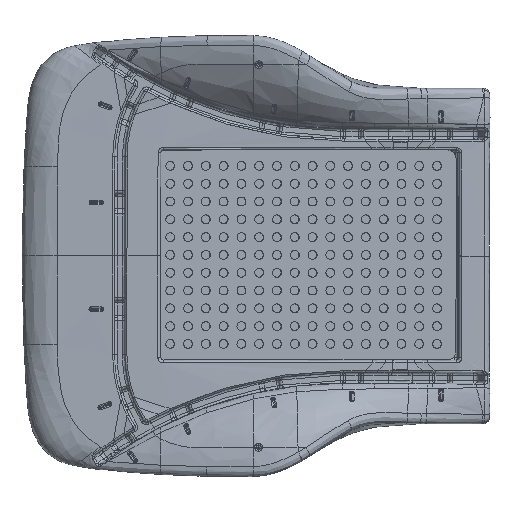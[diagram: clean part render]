
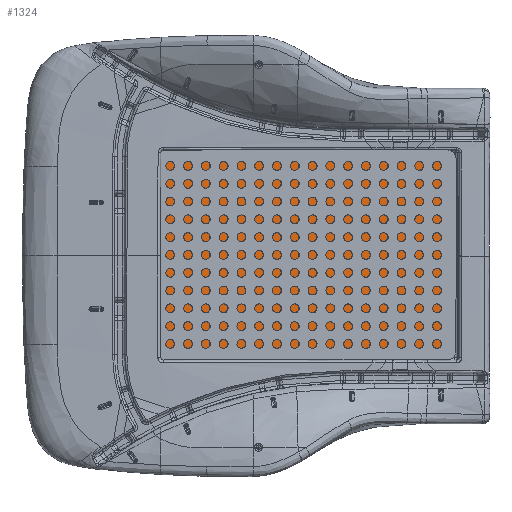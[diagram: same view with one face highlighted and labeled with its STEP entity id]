
A CAD part, top view. The second image highlights one B-rep face of the part: STEP entity #1324.
In plain terms, the highlighted planar face has unit normal (0.039, -0.004, 0.999).
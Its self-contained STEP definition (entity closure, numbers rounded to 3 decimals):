
#1117=AXIS2_PLACEMENT_3D('Circle Axis2P3D',#1115,#1116,$) ;
#1248=AXIS2_PLACEMENT_3D('Plane Axis2P3D',#1245,#1246,#1247) ;
#1311=AXIS2_PLACEMENT_3D('Circle Axis2P3D',#1309,#1310,$) ;
#1112=CARTESIAN_POINT('Vertex',(-430.165,-500.56,604.449)) ;
#1115=CARTESIAN_POINT('Axis2P3D Location',(-420.173,-500.56,604.056)) ;
#1119=CARTESIAN_POINT('Vertex',(-420.172,-490.56,604.096)) ;
#1226=CARTESIAN_POINT('Line Origine',(-430.183,-608.55,604.024)) ;
#1230=CARTESIAN_POINT('Vertex',(-430.2,-716.539,603.598)) ;
#1245=CARTESIAN_POINT('Axis2P3D Location',(23.14,-2.322,588.593)) ;
#1250=CARTESIAN_POINT('Line Origine',(-94.165,-608.551,590.813)) ;
#1254=CARTESIAN_POINT('Vertex',(-94.183,-716.541,590.388)) ;
#1256=CARTESIAN_POINT('Vertex',(-94.148,-500.561,591.239)) ;
#1260=CARTESIAN_POINT('Control Point',(-104.139,-490.561,591.671)) ;
#1261=CARTESIAN_POINT('Control Point',(-103.21,-490.561,591.634)) ;
#1262=CARTESIAN_POINT('Control Point',(-102.281,-490.669,591.597)) ;
#1263=CARTESIAN_POINT('Control Point',(-101.369,-490.885,591.561)) ;
#1264=CARTESIAN_POINT('Control Point',(-99.612,-491.526,591.489)) ;
#1265=CARTESIAN_POINT('Control Point',(-98.048,-492.552,591.423)) ;
#1266=CARTESIAN_POINT('Control Point',(-97.33,-493.154,591.393)) ;
#1267=CARTESIAN_POINT('Control Point',(-96.046,-494.515,591.337)) ;
#1268=CARTESIAN_POINT('Control Point',(-95.108,-496.133,591.294)) ;
#1269=CARTESIAN_POINT('Control Point',(-94.735,-496.994,591.276)) ;
#1270=CARTESIAN_POINT('Control Point',(-94.364,-498.23,591.256)) ;
#1271=CARTESIAN_POINT('Control Point',(-94.195,-499.502,591.245)) ;
#1272=CARTESIAN_POINT('Control Point',(-94.164,-499.856,591.242)) ;
#1273=CARTESIAN_POINT('Control Point',(-94.148,-500.209,591.24)) ;
#1274=CARTESIAN_POINT('Control Point',(-94.148,-500.561,591.239)) ;
#1275=CARTESIAN_POINT('Vertex',(-104.139,-490.561,591.671)) ;
#1278=CARTESIAN_POINT('Line Origine',(-262.155,-490.561,597.883)) ;
#1284=CARTESIAN_POINT('Control Point',(-420.209,-726.539,603.166)) ;
#1285=CARTESIAN_POINT('Control Point',(-421.138,-726.539,603.203)) ;
#1286=CARTESIAN_POINT('Control Point',(-422.067,-726.431,603.24)) ;
#1287=CARTESIAN_POINT('Control Point',(-422.979,-726.215,603.276)) ;
#1288=CARTESIAN_POINT('Control Point',(-424.736,-725.575,603.348)) ;
#1289=CARTESIAN_POINT('Control Point',(-426.3,-724.549,603.413)) ;
#1290=CARTESIAN_POINT('Control Point',(-427.018,-723.947,603.444)) ;
#1291=CARTESIAN_POINT('Control Point',(-428.302,-722.586,603.5)) ;
#1292=CARTESIAN_POINT('Control Point',(-429.24,-720.967,603.543)) ;
#1293=CARTESIAN_POINT('Control Point',(-429.613,-720.107,603.561)) ;
#1294=CARTESIAN_POINT('Control Point',(-429.984,-718.871,603.581)) ;
#1295=CARTESIAN_POINT('Control Point',(-430.153,-717.598,603.592)) ;
#1296=CARTESIAN_POINT('Control Point',(-430.184,-717.245,603.595)) ;
#1297=CARTESIAN_POINT('Control Point',(-430.2,-716.892,603.597)) ;
#1298=CARTESIAN_POINT('Control Point',(-430.2,-716.539,603.598)) ;
#1299=CARTESIAN_POINT('Vertex',(-420.209,-726.539,603.166)) ;
#1302=CARTESIAN_POINT('Line Origine',(-262.193,-726.54,596.954)) ;
#1306=CARTESIAN_POINT('Vertex',(-104.176,-726.541,590.741)) ;
#1309=CARTESIAN_POINT('Axis2P3D Location',(-104.175,-716.541,590.781)) ;
#1116=DIRECTION('Axis2P3D Direction',(-0.039,0.004,-0.999)) ;
#1227=DIRECTION('Vector Direction',(0.,1.,0.004)) ;
#1246=DIRECTION('Axis2P3D Direction',(0.039,-0.004,0.999)) ;
#1247=DIRECTION('Axis2P3D XDirection',(0.1,0.995,0.)) ;
#1251=DIRECTION('Vector Direction',(0.,-1.,-0.004)) ;
#1279=DIRECTION('Vector Direction',(-0.999,0.,0.039)) ;
#1303=DIRECTION('Vector Direction',(0.999,0.,-0.039)) ;
#1310=DIRECTION('Axis2P3D Direction',(0.039,-0.004,0.999)) ;
#1228=VECTOR('Line Direction',#1227,1.) ;
#1252=VECTOR('Line Direction',#1251,1.) ;
#1280=VECTOR('Line Direction',#1279,1.) ;
#1304=VECTOR('Line Direction',#1303,1.) ;
#1315=ORIENTED_EDGE('',*,*,#1258,.T.) ;
#1316=ORIENTED_EDGE('',*,*,#1277,.F.) ;
#1317=ORIENTED_EDGE('',*,*,#1282,.T.) ;
#1318=ORIENTED_EDGE('',*,*,#1121,.F.) ;
#1319=ORIENTED_EDGE('',*,*,#1232,.T.) ;
#1320=ORIENTED_EDGE('',*,*,#1301,.F.) ;
#1321=ORIENTED_EDGE('',*,*,#1308,.T.) ;
#1322=ORIENTED_EDGE('',*,*,#1313,.F.) ;
#1324=ADVANCED_FACE('\X2\5C555F0072B66001\X0\',(#1323),#1249,.T.) ;
#1259=B_SPLINE_CURVE_WITH_KNOTS('',5,(#1260,#1261,#1262,#1263,#1264,#1265,#1266,#1267,#1268,#1269,#1270,#1271,#1272,#1273,#1274),.UNSPECIFIED.,.F.,.U.,(6,3,3,3,6),(0.,6.586,13.172,19.758,22.258),.UNSPECIFIED.) ;
#1283=B_SPLINE_CURVE_WITH_KNOTS('',5,(#1284,#1285,#1286,#1287,#1288,#1289,#1290,#1291,#1292,#1293,#1294,#1295,#1296,#1297,#1298),.UNSPECIFIED.,.F.,.U.,(6,3,3,3,6),(0.,6.586,13.172,19.758,22.258),.UNSPECIFIED.) ;
#1118=CIRCLE('generated circle',#1117,10.) ;
#1312=CIRCLE('generated circle',#1311,10.) ;
#1121=EDGE_CURVE('',#1113,#1120,#1118,.T.) ;
#1232=EDGE_CURVE('',#1113,#1231,#1229,.F.) ;
#1258=EDGE_CURVE('',#1255,#1257,#1253,.F.) ;
#1277=EDGE_CURVE('',#1276,#1257,#1259,.T.) ;
#1282=EDGE_CURVE('',#1276,#1120,#1281,.T.) ;
#1301=EDGE_CURVE('',#1300,#1231,#1283,.T.) ;
#1308=EDGE_CURVE('',#1300,#1307,#1305,.T.) ;
#1313=EDGE_CURVE('',#1255,#1307,#1312,.F.) ;
#1314=EDGE_LOOP('',(#1315,#1316,#1317,#1318,#1319,#1320,#1321,#1322)) ;
#1323=FACE_OUTER_BOUND('',#1314,.T.) ;
#1229=LINE('Line',#1226,#1228) ;
#1253=LINE('Line',#1250,#1252) ;
#1281=LINE('Line',#1278,#1280) ;
#1305=LINE('Line',#1302,#1304) ;
#1249=PLANE('Plane',#1248) ;
#1113=VERTEX_POINT('',#1112) ;
#1120=VERTEX_POINT('',#1119) ;
#1231=VERTEX_POINT('',#1230) ;
#1255=VERTEX_POINT('',#1254) ;
#1257=VERTEX_POINT('',#1256) ;
#1276=VERTEX_POINT('',#1275) ;
#1300=VERTEX_POINT('',#1299) ;
#1307=VERTEX_POINT('',#1306) ;
